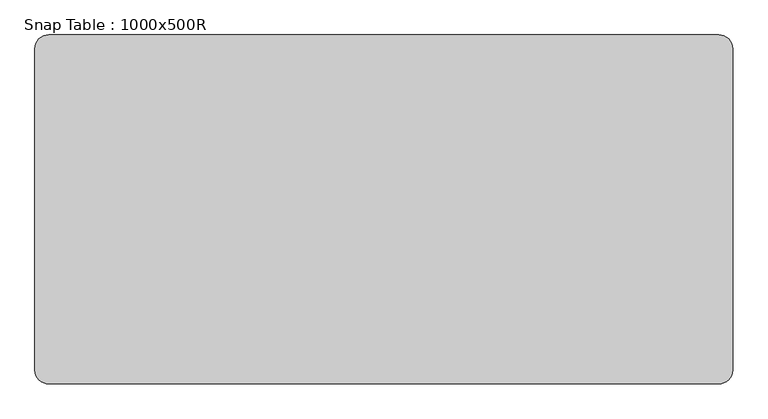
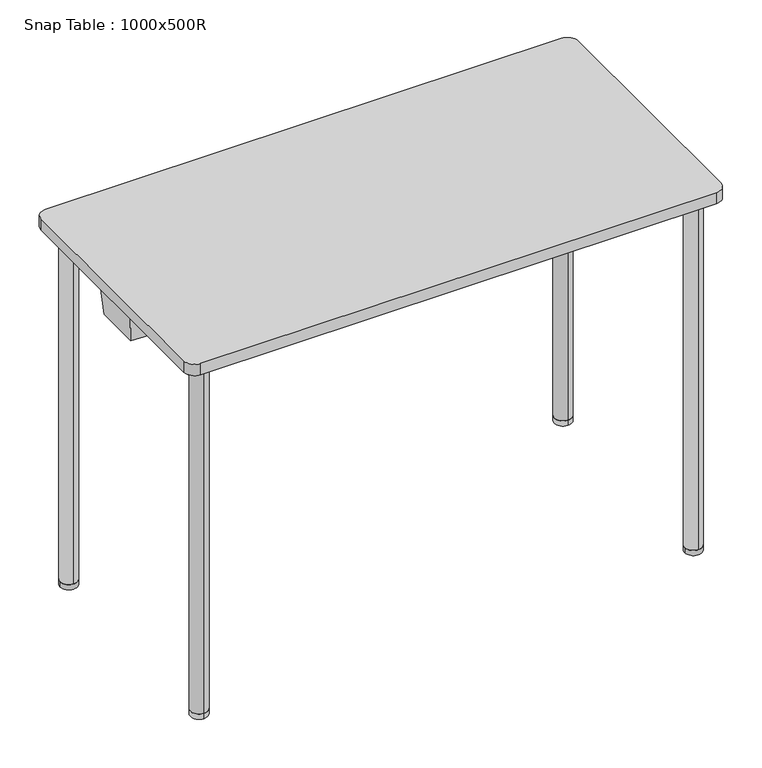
"""IFC4 building model written with IfcOpenShell, lengths in millimetres: furniture geometry, Snap Table : 1000x500R."""

from ifc_helpers import new_model, si_unit, point, frame, frame_2d, origin, origin_with_axes, place, context, project, spatial, polyline, circle_curve, ellipse_curve, trimmed, segment, composite_curve, outline, extrude, faceted_brep, source, transform, mapped, element, save
from ifc_brep_helpers import plane_surface, cylinder_surface, revolved_surface, advanced_brep


def snap_table_1000x500r_e6a35ad4(model_context):
    return source(origin(), model_context, "Body", "SolidModel", [
        extrude(outline(composite_curve([segment(trimmed(circle_curve(frame_2d((460.0, -210.0)), 16.0), [point((476.0, -210.0))], [point((444.0, -210.0))], False, "CARTESIAN"), True, "CONTINUOUS"), segment(trimmed(circle_curve(frame_2d((460.0, -210.0)), 16.0), [point((444.0, -210.0))], [point((476.0, -210.0))], False, "CARTESIAN"), True, "CONTINUOUS")], self_intersect=False)), origin_with_axes(), (0.0, 0.0, 1.0), 10.0),
        extrude(outline(composite_curve([segment(trimmed(circle_curve(frame_2d((460.0, 210.0)), 16.0), [point((460.0, 194.0))], [point((460.0, 226.0))], False, "CARTESIAN"), True, "CONTINUOUS"), segment(trimmed(circle_curve(frame_2d((460.0, 210.0)), 16.0), [point((460.0, 226.0))], [point((460.0, 194.0))], False, "CARTESIAN"), True, "CONTINUOUS")], self_intersect=False)), origin_with_axes(), (0.0, 0.0, 1.0), 10.0),
        advanced_brep(
        [(460.0, -226.0, 10.0), (460.0, -194.0, 10.0), (460.0, -226.0, 689.0), (460.0, -194.0, 657.0), (460.0, 226.0, 689.0), (460.0, 194.0, 657.0), (460.0, 226.0, 10.0), (460.0, 194.0, 10.0)],
        [
            (0, 1, circle_curve(frame((460.0, -210.0, 10.0), z_axis=(0.0, 0.0, -1.0), x_axis=(0.0, 1.0, 0.0)), 16.0)),
            (1, 0, circle_curve(frame((460.0, -210.0, 10.0), z_axis=(0.0, 0.0, -1.0), x_axis=(0.0, 1.0, 0.0)), 16.0)),
            (0, 2),
            (2, 3, ellipse_curve(frame((460.0, -210.0, 673.0), z_axis=(0.0, -0.7071067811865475, -0.7071067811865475), x_axis=(0.0, 0.7071067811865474, -0.7071067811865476)), 22.627417, 16.0)),
            (3, 1),
            (3, 2, ellipse_curve(frame((460.0, -210.0, 673.0), z_axis=(0.0, -0.7071067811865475, -0.7071067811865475), x_axis=(0.0, 0.7071067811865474, -0.7071067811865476)), 22.627417, 16.0)),
            (2, 4),
            (4, 5, ellipse_curve(frame((460.0, 210.0, 673.0), z_axis=(0.0, -0.7071067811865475, 0.7071067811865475), x_axis=(0.0, -0.7071067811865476, -0.7071067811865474)), 22.627417, 16.0)),
            (5, 3),
            (5, 4, ellipse_curve(frame((460.0, 210.0, 673.0), z_axis=(0.0, -0.7071067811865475, 0.7071067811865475), x_axis=(0.0, -0.7071067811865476, -0.7071067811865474)), 22.627417, 16.0)),
            (6, 7, circle_curve(frame((460.0, 210.0, 10.0), z_axis=(0.0, 0.0, -1.0), x_axis=(0.0, -1.0, 0.0)), 16.0)),
            (7, 6, circle_curve(frame((460.0, 210.0, 10.0), z_axis=(0.0, 0.0, -1.0), x_axis=(0.0, -1.0, 0.0)), 16.0)),
            (4, 6),
            (7, 5),
        ],
        [
            plane_surface(frame((460.0, -210.0, 10.0), z_axis=(0.0, 0.0, -1.0), x_axis=(-1.0, 0.0, 0.0))),
            cylinder_surface(frame((460.0, -210.0, 10.0), z_axis=(0.0, 0.0, -1.0), x_axis=(0.0, 1.0, 0.0)), 16.0),
            cylinder_surface(frame((460.0, -210.0, 673.0), z_axis=(0.0, -1.0, 0.0), x_axis=(0.0, 0.0, -1.0)), 16.0),
            plane_surface(frame((460.0, 210.0, 10.0), z_axis=(0.0, 0.0, -1.0), x_axis=(-1.0, 0.0, 0.0))),
            cylinder_surface(frame((460.0, 210.0, 673.0), z_axis=(0.0, 0.0, 1.0), x_axis=(0.0, -1.0, 0.0)), 16.0),
        ],
        [
            (0, [[1, 2]]),
            (1, [[-1, 3, 4, 5]]),
            (1, [[-2, -5, 6, -3]]),
            (2, [[-4, 7, 8, 9]]),
            (2, [[-6, -9, 10, -7]]),
            (3, [[11, 12]]),
            (4, [[-8, 13, -12, 14]]),
            (4, [[-10, -14, -11, -13]]),
        ],
    ),
        extrude(outline(composite_curve([segment(trimmed(circle_curve(frame_2d((-460.0470276, 210.0)), 16.0), [point((-476.0470276, 210.0))], [point((-444.0470276, 210.0))], False, "CARTESIAN"), True, "CONTINUOUS"), segment(trimmed(circle_curve(frame_2d((-460.0470276, 210.0)), 16.0), [point((-444.0470276, 210.0))], [point((-476.0470276, 210.0))], False, "CARTESIAN"), True, "CONTINUOUS")], self_intersect=False)), origin_with_axes(), (0.0, 0.0, 1.0), 10.0),
        extrude(outline(composite_curve([segment(trimmed(circle_curve(frame_2d((-460.0470276, -210.0)), 16.0), [point((-460.0470276, -194.0))], [point((-460.0470276, -226.0))], False, "CARTESIAN"), True, "CONTINUOUS"), segment(trimmed(circle_curve(frame_2d((-460.0470276, -210.0)), 16.0), [point((-460.0470276, -226.0))], [point((-460.0470276, -194.0))], False, "CARTESIAN"), True, "CONTINUOUS")], self_intersect=False)), origin_with_axes(), (0.0, 0.0, 1.0), 10.0),
        advanced_brep(
        [(-460.0470276, 226.0, 10.0), (-460.0470276, 194.0, 10.0), (-460.0470276, 226.0, 689.0), (-460.0470276, 194.0, 657.0), (-460.0470276, -226.0, 689.0), (-460.0470276, -194.0, 657.0), (-460.0470276, -226.0, 10.0), (-460.0470276, -194.0, 10.0)],
        [
            (0, 1, circle_curve(frame((-460.0470276, 210.0, 10.0), z_axis=(0.0, 0.0, -1.0), x_axis=(0.0, -1.0, 0.0)), 16.0)),
            (1, 0, circle_curve(frame((-460.0470276, 210.0, 10.0), z_axis=(0.0, 0.0, -1.0), x_axis=(0.0, -1.0, 0.0)), 16.0)),
            (0, 2),
            (2, 3, ellipse_curve(frame((-460.0470276, 210.0, 673.0), z_axis=(0.0, 0.7071067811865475, -0.7071067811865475), x_axis=(0.0, -0.7071067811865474, -0.7071067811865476)), 22.627417, 16.0)),
            (3, 1),
            (3, 2, ellipse_curve(frame((-460.0470276, 210.0, 673.0), z_axis=(0.0, 0.7071067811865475, -0.7071067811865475), x_axis=(0.0, -0.7071067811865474, -0.7071067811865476)), 22.627417, 16.0)),
            (2, 4),
            (4, 5, ellipse_curve(frame((-460.0470276, -210.0, 673.0), z_axis=(0.0, 0.7071067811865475, 0.7071067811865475), x_axis=(0.0, 0.7071067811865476, -0.7071067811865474)), 22.627417, 16.0)),
            (5, 3),
            (5, 4, ellipse_curve(frame((-460.0470276, -210.0, 673.0), z_axis=(0.0, 0.7071067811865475, 0.7071067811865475), x_axis=(0.0, 0.7071067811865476, -0.7071067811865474)), 22.627417, 16.0)),
            (6, 7, circle_curve(frame((-460.0470276, -210.0, 10.0), z_axis=(0.0, 0.0, -1.0), x_axis=(0.0, 1.0, 0.0)), 16.0)),
            (7, 6, circle_curve(frame((-460.0470276, -210.0, 10.0), z_axis=(0.0, 0.0, -1.0), x_axis=(0.0, 1.0, 0.0)), 16.0)),
            (4, 6),
            (7, 5),
        ],
        [
            plane_surface(frame((-460.0470276, 210.0, 10.0), z_axis=(0.0, 0.0, -1.0), x_axis=(1.0, 0.0, 0.0))),
            cylinder_surface(frame((-460.0470276, 210.0, 10.0), z_axis=(0.0, 0.0, -1.0), x_axis=(0.0, -1.0, 0.0)), 16.0),
            cylinder_surface(frame((-460.0470276, 210.0, 673.0), z_axis=(0.0, 1.0, 0.0), x_axis=(0.0, 0.0, -1.0)), 16.0),
            plane_surface(frame((-460.0470276, -210.0, 10.0), z_axis=(0.0, 0.0, -1.0), x_axis=(1.0, 0.0, 0.0))),
            cylinder_surface(frame((-460.0470276, -210.0, 673.0), z_axis=(0.0, 0.0, 1.0), x_axis=(0.0, 1.0, 0.0)), 16.0),
        ],
        [
            (0, [[1, 2]]),
            (1, [[-1, 3, 4, 5]]),
            (1, [[-2, -5, 6, -3]]),
            (2, [[-4, 7, 8, 9]]),
            (2, [[-6, -9, 10, -7]]),
            (3, [[11, 12]]),
            (4, [[-8, 13, -12, 14]]),
            (4, [[-10, -14, -11, -13]]),
        ],
    ),
        extrude(outline(composite_curve([segment(trimmed(circle_curve(frame_2d((480.0, 230.0)), 20.0), [point((480.0, 250.0))], [point((500.0, 230.0))], False, "CARTESIAN"), True, "CONTINUOUS"), segment(polyline([(500.0, 230.0), (500.0, -230.0)]), True, "CONTINUOUS"), segment(trimmed(circle_curve(frame_2d((480.0, -230.0)), 20.0), [point((500.0, -230.0))], [point((480.0, -250.0))], False, "CARTESIAN"), True, "CONTINUOUS"), segment(polyline([(480.0, -250.0), (-480.0, -250.0)]), True, "CONTINUOUS"), segment(trimmed(circle_curve(frame_2d((-480.0, -230.0)), 20.0), [point((-480.0, -250.0))], [point((-500.0, -230.0))], False, "CARTESIAN"), True, "CONTINUOUS"), segment(polyline([(-500.0, -230.0), (-500.0, 230.0)]), True, "CONTINUOUS"), segment(trimmed(circle_curve(frame_2d((-480.0, 230.0)), 20.0), [point((-500.0, 230.0))], [point((-480.0, 250.0))], False, "CARTESIAN"), True, "CONTINUOUS"), segment(polyline([(-480.0, 250.0), (480.0, 250.0)]), True, "CONTINUOUS")], self_intersect=False)), frame((0.0, 0.0, 698.0), z_axis=(0.0, 0.0, 1.0), x_axis=(1.0, 0.0, 0.0)), (0.0, 0.0, 1.0), 22.0),
        advanced_brep(
        [(-490.8110657, 42.2236058, 643.0), (-457.6910354, 44.5767873, 643.0), (-440.5708933, 36.0824003, 643.0), (440.5710292, 36.0824678, 643.0), (457.6910354, 44.5767873, 643.0), (490.8110657, 42.2236058, 643.0), (490.8110657, -42.2236058, 643.0), (457.6044607, -44.2417031, 643.0), (440.4018781, -36.0497649, 643.0), (-440.4020196, -36.0498323, 643.0), (-457.6044607, -44.2417031, 643.0), (-490.8110657, -42.2236058, 643.0), (-494.8110657, 48.9570516, 698.0), (-494.8110657, -48.9934252, 698.0), (-456.225892, -51.3383995, 698.0), (-434.6205129, -41.049832, 698.0), (434.6203726, -41.0497654, 698.0), (456.225892, -51.3383995, 698.0), (494.8110657, -48.9934252, 698.0), (494.8110657, 48.9570516, 698.0), (456.286594, 51.6942192, 698.0), (434.8989768, 41.0824675, 698.0), (-434.8988421, 41.0824008, 698.0), (-456.286594, 51.6942192, 698.0), (-457.2475737, -46.0789118, 657.2385232), (-476.0, -46.9489596, 673.0), (-456.4614069, -50.125999, 688.6037931), (-444.0, -41.9922101, 673.0), (457.2475737, -46.0789118, 657.2385232), (444.0, -41.9922101, 673.0), (456.4614069, -50.125999, 688.6037931), (476.0, -46.9489596, 673.0), (457.3278029, 46.4175782, 657.2247231), (476.0, 47.1037405, 673.0), (456.5261576, 50.4801582, 688.618336), (444.0, 42.0461233, 673.0), (-457.3278029, 46.4175782, 657.2247231), (-444.0, 42.0461233, 673.0), (-456.5261576, 50.4801582, 688.618336), (-476.0, 47.1037405, 673.0)],
        [
            (0, 1),
            (1, 2),
            (2, 3),
            (3, 4),
            (4, 5),
            (5, 6),
            (6, 7),
            (7, 8),
            (8, 9),
            (9, 10),
            (10, 11),
            (11, 0),
            (12, 13),
            (13, 14),
            (14, 15),
            (15, 16),
            (16, 17),
            (17, 18),
            (18, 19),
            (19, 20),
            (20, 21),
            (21, 22),
            (22, 23),
            (23, 12),
            (11, 13),
            (12, 0),
            (10, 24),
            (24, 25, ellipse_curve(frame((-460.0, -47.9213432, 673.0), z_axis=(0.0601766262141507, 0.9901710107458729, 0.126254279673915), x_axis=(0.42602826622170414, -0.13986196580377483, 0.8938336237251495)), 16.1588249, 16.0)),
            (25, 26, ellipse_curve(frame((-460.0, -47.9213432, 673.0), z_axis=(0.0601766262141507, 0.9901710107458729, 0.126254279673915), x_axis=(0.42602826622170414, -0.13986196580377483, 0.8938336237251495)), 16.1588249, 16.0)),
            (26, 14),
            (9, 15),
            (26, 27, ellipse_curve(frame((-460.0, -49.6114737, 673.0), z_axis=(-0.42650306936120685, 0.8956310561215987, 0.1262542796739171), x_axis=(-0.8587935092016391, -0.4447977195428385, 0.2542217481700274)), 17.8644989, 16.0)),
            (27, 24, ellipse_curve(frame((-460.0, -49.6114737, 673.0), z_axis=(-0.42650306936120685, 0.8956310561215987, 0.1262542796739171), x_axis=(-0.8587935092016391, -0.4447977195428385, 0.2542217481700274)), 17.8644989, 16.0)),
            (8, 16),
            (7, 28),
            (28, 29, ellipse_curve(frame((460.0, -49.6114737, 673.0), z_axis=(0.42650306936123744, 0.8956310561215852, 0.12625427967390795), x_axis=(0.8587935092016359, -0.4447977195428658, 0.25422174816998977)), 17.8644989, 16.0)),
            (29, 30, ellipse_curve(frame((460.0, -49.6114737, 673.0), z_axis=(0.42650306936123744, 0.8956310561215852, 0.12625427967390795), x_axis=(0.8587935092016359, -0.4447977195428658, 0.25422174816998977)), 17.8644989, 16.0)),
            (30, 17),
            (6, 18),
            (30, 31, ellipse_curve(frame((460.0, -47.9213432, 673.0), z_axis=(-0.06017662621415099, 0.9901710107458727, 0.12625427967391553), x_axis=(-0.4260282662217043, -0.13986196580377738, 0.8938336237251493)), 16.1588249, 16.0)),
            (31, 28, ellipse_curve(frame((460.0, -47.9213432, 673.0), z_axis=(-0.06017662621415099, 0.9901710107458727, 0.12625427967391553), x_axis=(-0.4260282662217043, -0.13986196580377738, 0.8938336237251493)), 16.1588249, 16.0)),
            (5, 19),
            (4, 32),
            (32, 33, ellipse_curve(frame((460.0, 48.2405422, 673.0), z_axis=(-0.07030432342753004, -0.9895034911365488, 0.12625427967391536), x_axis=(0.48139832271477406, -0.14450896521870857, -0.8645072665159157)), 16.1697257, 16.0)),
            (33, 34, ellipse_curve(frame((460.0, 48.2405422, 673.0), z_axis=(-0.07030432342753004, -0.9895034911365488, 0.12625427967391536), x_axis=(0.48139832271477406, -0.14450896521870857, -0.8645072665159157)), 16.1697257, 16.0)),
            (34, 20),
            (3, 21),
            (34, 35, ellipse_curve(frame((460.0, 49.9847369, 673.0), z_axis=(0.44090536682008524, -0.8886294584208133, 0.12625427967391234), x_axis=(-0.854294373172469, -0.4586258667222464, -0.2446291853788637)), 18.005255, 16.0)),
            (35, 32, ellipse_curve(frame((460.0, 49.9847369, 673.0), z_axis=(0.44090536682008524, -0.8886294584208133, 0.12625427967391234), x_axis=(-0.854294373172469, -0.4586258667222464, -0.2446291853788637)), 18.005255, 16.0)),
            (2, 22),
            (1, 36),
            (36, 37, ellipse_curve(frame((-460.0, 49.9847369, 673.0), z_axis=(-0.4409053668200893, -0.88862945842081, 0.12625427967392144), x_axis=(0.8542943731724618, -0.4586258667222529, -0.24462918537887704)), 18.005255, 16.0)),
            (37, 38, ellipse_curve(frame((-460.0, 49.9847369, 673.0), z_axis=(-0.4409053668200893, -0.88862945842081, 0.12625427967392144), x_axis=(0.8542943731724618, -0.4586258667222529, -0.24462918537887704)), 18.005255, 16.0)),
            (38, 23),
            (38, 39, ellipse_curve(frame((-460.0, 48.2405422, 673.0), z_axis=(0.07030432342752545, -0.9895034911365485, 0.12625427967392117), x_axis=(-0.481398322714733, -0.14450896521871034, -0.8645072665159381)), 16.1697257, 16.0)),
            (39, 36, ellipse_curve(frame((-460.0, 48.2405422, 673.0), z_axis=(0.07030432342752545, -0.9895034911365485, 0.12625427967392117), x_axis=(-0.481398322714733, -0.14450896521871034, -0.8645072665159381)), 16.1697257, 16.0)),
            (35, 29),
            (31, 33),
            (39, 25),
            (27, 37),
        ],
        [
            plane_surface(frame((-5e-07, 0.0612866, 643.0), z_axis=(0.0, 0.0, -1.0), x_axis=(0.0, -1.0, 0.0))),
            plane_surface(frame((-5e-07, 0.0586803, 698.0), z_axis=(0.0, 0.0, 1.0), x_axis=(0.0, -1.0, 0.0))),
            plane_surface(frame((-494.8110657, -0.0181868, 698.0), z_axis=(-0.997365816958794, 0.0, -0.07253569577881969), x_axis=(0.0, 1.0, 0.0))),
            plane_surface(frame((-475.5184789, -50.1659123, 698.0), z_axis=(-0.0601766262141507, -0.9901710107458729, -0.126254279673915), x_axis=(-0.9981583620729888, 0.06066204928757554, 0.0))),
            plane_surface(frame((-445.4232025, -46.1941158, 698.0), z_axis=(0.42650306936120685, -0.8956310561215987, -0.1262542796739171), x_axis=(-0.9028557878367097, -0.4299435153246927, 0.0))),
            plane_surface(frame((-7.01e-05, -41.0497986, 698.0), z_axis=(7.621604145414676e-08, -0.9958932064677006, -0.09053574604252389), x_axis=(-0.9999999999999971, -7.653033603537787e-08, 0.0))),
            plane_surface(frame((445.4231323, -46.1940824, 698.0), z_axis=(-0.42650306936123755, -0.8956310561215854, -0.12625427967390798), x_axis=(-0.9028557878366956, 0.4299435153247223, 0.0))),
            plane_surface(frame((475.5184789, -50.1659123, 698.0), z_axis=(0.060176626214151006, -0.9901710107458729, -0.12625427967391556), x_axis=(-0.9981583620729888, -0.06066204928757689, 0.0))),
            plane_surface(frame((494.8110657, -0.0181868, 698.0), z_axis=(0.9973658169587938, 0.0, -0.07253569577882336), x_axis=(0.0, -1.0, 0.0))),
            plane_surface(frame((475.5488298, 50.3256354, 698.0), z_axis=(0.07030432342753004, 0.9895034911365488, -0.12625427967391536), x_axis=(0.9974854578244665, -0.07087144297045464, 0.0))),
            plane_surface(frame((445.5927854, 46.3883433, 698.0), z_axis=(-0.44090536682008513, 0.8886294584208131, -0.1262542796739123), x_axis=(0.8957977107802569, 0.44446199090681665, 0.0))),
            plane_surface(frame((6.73e-05, 41.082434, 698.0), z_axis=(-7.620690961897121e-08, 0.995893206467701, -0.09053574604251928), x_axis=(0.9999999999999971, 7.652116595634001e-08, 0.0))),
            plane_surface(frame((-445.5927181, 46.3883099, 698.0), z_axis=(0.4409053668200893, 0.88862945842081, -0.12625427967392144), x_axis=(0.8957977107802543, -0.4444619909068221, 0.0))),
            plane_surface(frame((-475.5488298, 50.3256354, 698.0), z_axis=(-0.07030432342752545, 0.9895034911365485, -0.12625427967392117), x_axis=(0.997485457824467, 0.07087144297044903, 0.0))),
            revolved_surface(polyline([(476.0, -57.55756207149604, 673.0), (476.0, 58.24241257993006, 673.0)]), (460.0, 70.0, 673.0), (0.0, -1.0, 0.0)),
            revolved_surface(polyline([(-476.0, -57.55756207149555, 673.0), (-476.0, 58.242412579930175, 673.0)]), (-460.0, 70.0, 673.0), (0.0, -1.0, 0.0)),
        ],
        [
            (0, [[1, 2, 3, 4, 5, 6, 7, 8, 9, 10, 11, 12]]),
            (1, [[13, 14, 15, 16, 17, 18, 19, 20, 21, 22, 23, 24]]),
            (2, [[-12, 25, -13, 26]]),
            (3, [[-11, 27, 28, 29, 30, -14, -25]]),
            (4, [[-10, 31, -15, -30, 32, 33, -27]]),
            (5, [[-9, 34, -16, -31]]),
            (6, [[-8, 35, 36, 37, 38, -17, -34]]),
            (7, [[-7, 39, -18, -38, 40, 41, -35]]),
            (8, [[-6, 42, -19, -39]]),
            (9, [[-5, 43, 44, 45, 46, -20, -42]]),
            (10, [[-4, 47, -21, -46, 48, 49, -43]]),
            (11, [[-3, 50, -22, -47]]),
            (12, [[-2, 51, 52, 53, 54, -23, -50]]),
            (13, [[-1, -26, -24, -54, 55, 56, -51]]),
            (14, [[57, -36, -41, 58, -44, -49]]),
            (14, [[-57, -48, -45, -58, -40, -37]]),
            (15, [[59, -28, -33, 60, -52, -56]]),
            (15, [[-59, -55, -53, -60, -32, -29]]),
        ],
    ),
        faceted_brep([(430.1271057, 132.1409864, 643.0), (430.1271057, 177.0366315, 643.0), (441.3990784, 177.0366315, 643.0), (441.3990784, 132.1409864, 643.0), (426.2186584, 128.0138349, 688.0), (444.2631531, 128.0138349, 688.0), (444.2631531, 181.163783, 688.0), (426.2186584, 181.163783, 688.0)], [[[0, 1, 2, 3]], [[4, 5, 6, 7]], [[5, 4, 0, 3]], [[6, 5, 3, 2]], [[7, 6, 2, 1]], [[4, 7, 1, 0]]]),
        extrude(outline(polyline([(426.2186584, 181.163783), (477.86026, 181.163783), (477.86026, 128.0138349), (426.2186584, 128.0138349), (426.2186584, 181.163783)])), frame((0.0, 0.0, 688.0), z_axis=(0.0, 0.0, 1.0), x_axis=(1.0, 0.0, 0.0)), (0.0, 0.0, 1.0), 10.0),
        faceted_brep([(430.1271057, -132.1409864, 643.0), (441.3990784, -132.1409864, 643.0), (441.3990784, -177.0366315, 643.0), (430.1271057, -177.0366315, 643.0), (426.2186584, -128.0138349, 688.0), (426.2186584, -181.163783, 688.0), (444.2631531, -181.163783, 688.0), (444.2631531, -128.0138349, 688.0)], [[[0, 1, 2, 3]], [[4, 5, 6, 7]], [[4, 7, 1, 0]], [[7, 6, 2, 1]], [[6, 5, 3, 2]], [[5, 4, 0, 3]]]),
        extrude(outline(polyline([(426.2186584, -181.163783), (426.2186584, -128.0138349), (477.86026, -128.0138349), (477.86026, -181.163783), (426.2186584, -181.163783)])), frame((0.0, 0.0, 688.0), z_axis=(0.0, 0.0, 1.0), x_axis=(1.0, 0.0, 0.0)), (0.0, 0.0, 1.0), 10.0),
        faceted_brep([(-430.1271057, 132.1409864, 643.0), (-441.3990784, 132.1409864, 643.0), (-441.3990784, 177.0366315, 643.0), (-430.1271057, 177.0366315, 643.0), (-426.2186584, 128.0138349, 688.0), (-426.2186584, 181.163783, 688.0), (-444.2631531, 181.163783, 688.0), (-444.2631531, 128.0138349, 688.0)], [[[0, 1, 2, 3]], [[4, 5, 6, 7]], [[4, 7, 1, 0]], [[7, 6, 2, 1]], [[6, 5, 3, 2]], [[5, 4, 0, 3]]]),
        extrude(outline(polyline([(-426.2186584, 181.163783), (-426.2186584, 128.0138349), (-477.86026, 128.0138349), (-477.86026, 181.163783), (-426.2186584, 181.163783)])), frame((0.0, 0.0, 688.0), z_axis=(0.0, 0.0, 1.0), x_axis=(1.0, 0.0, 0.0)), (0.0, 0.0, 1.0), 10.0),
        faceted_brep([(-430.1271057, -132.1409864, 643.0), (-430.1271057, -177.0366315, 643.0), (-441.3990784, -177.0366315, 643.0), (-441.3990784, -132.1409864, 643.0), (-426.2186584, -128.0138349, 688.0), (-444.2631531, -128.0138349, 688.0), (-444.2631531, -181.163783, 688.0), (-426.2186584, -181.163783, 688.0)], [[[0, 1, 2, 3]], [[4, 5, 6, 7]], [[5, 4, 0, 3]], [[6, 5, 3, 2]], [[7, 6, 2, 1]], [[4, 7, 1, 0]]]),
        extrude(outline(polyline([(-426.2186584, -181.163783), (-477.86026, -181.163783), (-477.86026, -128.0138349), (-426.2186584, -128.0138349), (-426.2186584, -181.163783)])), frame((0.0, 0.0, 688.0), z_axis=(0.0, 0.0, 1.0), x_axis=(1.0, 0.0, 0.0)), (0.0, 0.0, 1.0), 10.0),
    ])


if __name__ == "__main__":
    model = new_model("IFC4")
    model_context = context("Model", 3, world=origin())
    ifc_project = project(units=[si_unit("LENGTHUNIT", "METRE", prefix="MILLI")], contexts=[model_context])
    site = spatial("IfcSite", under=ifc_project)
    building = spatial("IfcBuilding", under=site)
    placement = place(None, origin())
    snap_table_1000x500r_shape = snap_table_1000x500r_e6a35ad4(model_context)
    element("IfcFurniture", 1, ObjectType="Snap Table : 1000x500R", at=placement, inside=building, context=model_context, shape_type="MappedRepresentation", body=[
        mapped(snap_table_1000x500r_shape, transform((0.0, 0.0, 0.0), x_axis=(1.0, 0.0, 0.0), y_axis=(0.0, 1.0, 0.0), z_axis=(0.0, 0.0, 1.0))),
    ])
    save(model, "model.ifc")
